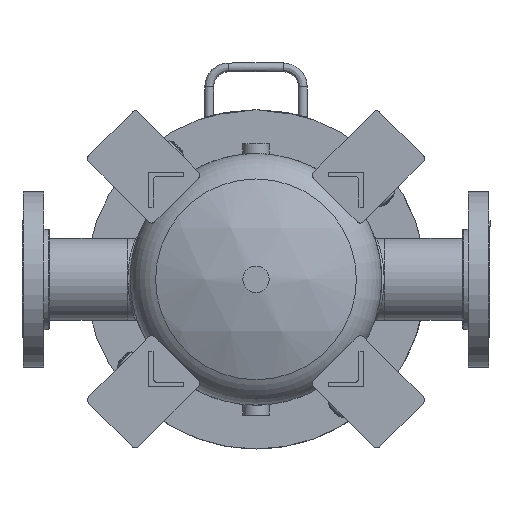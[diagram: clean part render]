
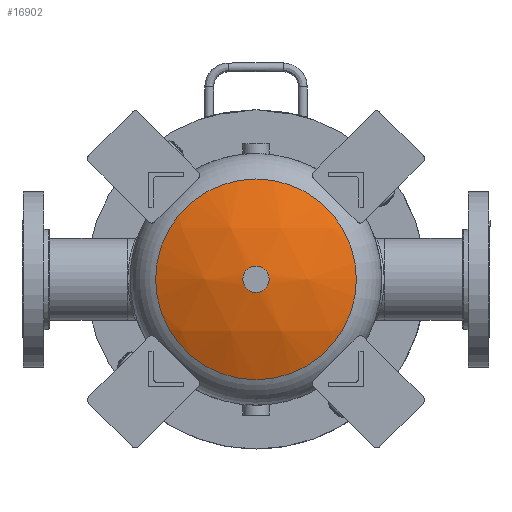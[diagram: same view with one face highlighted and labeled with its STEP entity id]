
A CAD part, front view. The second image highlights one B-rep face of the part: STEP entity #16902.
In plain terms, the highlighted spherical face has radius 243.583 mm.
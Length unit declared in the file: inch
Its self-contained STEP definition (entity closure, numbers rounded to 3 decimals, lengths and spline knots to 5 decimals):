
#136 = CARTESIAN_POINT ( 'NONE',  ( 0., -29.48349, 0.5625 ) ) ;
#228 = CIRCLE ( 'NONE', #10596, 0.5625 ) ;
#517 = DIRECTION ( 'NONE',  ( 1., 0., 0. ) ) ;
#1480 = EDGE_LOOP ( 'NONE', ( #3346 ) ) ;
#1985 = CARTESIAN_POINT ( 'NONE',  ( 0., -28.48738, 0. ) ) ;
#3346 = ORIENTED_EDGE ( 'NONE', *, *, #9034, .T. ) ;
#4463 = SPHERICAL_SURFACE ( 'NONE', #8463, 9.58989 ) ;
#5014 = CIRCLE ( 'NONE', #12579, 4.28911 ) ;
#5706 = EDGE_CURVE ( 'NONE', #13617, #13617, #228, .T. ) ;
#6332 = DIRECTION ( 'NONE',  ( 0., 0., 1. ) ) ;
#7411 = FACE_OUTER_BOUND ( 'NONE', #1480, .T. ) ;
#7781 = EDGE_LOOP ( 'NONE', ( #12461 ) ) ;
#7989 = DIRECTION ( 'NONE',  ( 0., -1., 0. ) ) ;
#8004 = DIRECTION ( 'NONE',  ( 0., 0., -1. ) ) ;
#8463 = AXIS2_PLACEMENT_3D ( 'NONE', #11165, #8004, #15494 ) ;
#9034 = EDGE_CURVE ( 'NONE', #9665, #9665, #5014, .T. ) ;
#9665 = VERTEX_POINT ( 'NONE', #12527 ) ;
#10596 = AXIS2_PLACEMENT_3D ( 'NONE', #13726, #10870, #6332 ) ;
#10870 = DIRECTION ( 'NONE',  ( 0., -1., 0. ) ) ;
#11165 = CARTESIAN_POINT ( 'NONE',  ( 0., -19.91011, 0. ) ) ;
#12461 = ORIENTED_EDGE ( 'NONE', *, *, #5706, .F. ) ;
#12527 = CARTESIAN_POINT ( 'NONE',  ( 4.28911, -28.48738, 0. ) ) ;
#12579 = AXIS2_PLACEMENT_3D ( 'NONE', #1985, #7989, #517 ) ;
#13617 = VERTEX_POINT ( 'NONE', #136 ) ;
#13630 = FACE_OUTER_BOUND ( 'NONE', #7781, .T. ) ;
#13726 = CARTESIAN_POINT ( 'NONE',  ( 0., -29.48349, 0. ) ) ;
#15494 = DIRECTION ( 'NONE',  ( -1., 0., 0. ) ) ;
#16902 = ADVANCED_FACE ( 'NONE', ( #13630, #7411 ), #4463, .T. ) ;
